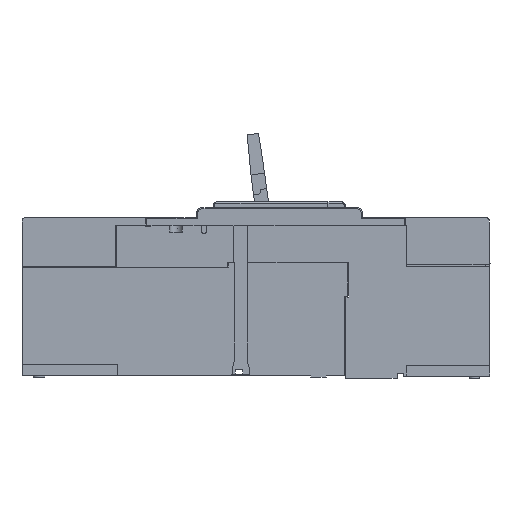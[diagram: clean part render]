
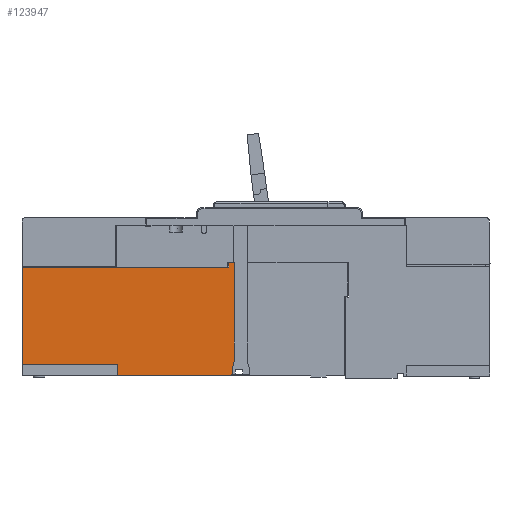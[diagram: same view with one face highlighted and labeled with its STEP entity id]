
A CAD part, left-side view. The second image highlights one B-rep face of the part: STEP entity #123947.
In plain terms, the highlighted planar face has unit normal (-1, 0, 0).
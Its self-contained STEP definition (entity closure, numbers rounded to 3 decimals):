
#14928=DIRECTION('',(0.,0.,1.));
#14929=VECTOR('',#14928,84.7);
#14930=CARTESIAN_POINT('',(2.393,359.95,30.61));
#14931=LINE('',#14930,#14929);
#14948=DIRECTION('',(0.,1.,0.));
#14949=VECTOR('',#14948,83.5);
#14950=CARTESIAN_POINT('',(2.393,276.45,30.61));
#14951=LINE('',#14950,#14949);
#14956=DIRECTION('',(0.,0.,1.));
#14957=VECTOR('',#14956,9.8);
#14958=CARTESIAN_POINT('',(2.393,276.45,20.81));
#14959=LINE('',#14958,#14957);
#14964=DIRECTION('',(0.,1.,0.001));
#14965=VECTOR('',#14964,4.554);
#14966=CARTESIAN_POINT('',(2.393,174.896,119.009));
#14967=LINE('',#14966,#14965);
#14968=DIRECTION('',(0.,0.001,-1.));
#14969=VECTOR('',#14968,0.301);
#14970=CARTESIAN_POINT('',(2.393,174.896,119.31));
#14971=LINE('',#14970,#14969);
#14972=DIRECTION('',(0.,-0.27,0.963));
#14973=VECTOR('',#14972,6.49);
#14974=CARTESIAN_POINT('',(2.393,176.2,27.81));
#14975=LINE('',#14974,#14973);
#14976=DIRECTION('',(0.,-0.071,0.997));
#14977=VECTOR('',#14976,7.018);
#14978=CARTESIAN_POINT('',(2.393,176.7,20.81));
#14979=LINE('',#14978,#14977);
#14980=DIRECTION('',(0.,0.001,-1.));
#14981=VECTOR('',#14980,0.045);
#14982=CARTESIAN_POINT('',(2.393,277.398,115.31));
#14983=LINE('',#14982,#14981);
#14984=DIRECTION('',(0.,1.,0.001));
#14985=VECTOR('',#14984,97.);
#14986=CARTESIAN_POINT('',(2.393,180.398,115.212));
#14987=LINE('',#14986,#14985);
#14988=DIRECTION('',(0.,-0.001,1.));
#14989=VECTOR('',#14988,0.098);
#14990=CARTESIAN_POINT('',(2.393,180.398,115.212));
#14991=LINE('',#14990,#14989);
#15000=DIRECTION('',(0.,-1.,0.));
#15001=VECTOR('',#15000,0.446);
#15002=CARTESIAN_POINT('',(2.393,174.896,119.31));
#15003=LINE('',#15002,#15001);
#15004=DIRECTION('',(0.,0.,-1.));
#15005=VECTOR('',#15004,85.25);
#15006=CARTESIAN_POINT('',(2.393,174.45,119.31));
#15007=LINE('',#15006,#15005);
#15414=DIRECTION('',(0.,1.,0.));
#15415=VECTOR('',#15414,99.75);
#15416=CARTESIAN_POINT('',(2.393,176.7,20.81));
#15417=LINE('',#15416,#15415);
#16069=DIRECTION('',(0.,0.,1.));
#16070=VECTOR('',#16069,3.702);
#16071=CARTESIAN_POINT('',(2.393,179.45,115.31));
#16072=LINE('',#16071,#16070);
#16090=DIRECTION('',(0.,-1.,0.));
#16091=VECTOR('',#16090,0.948);
#16092=CARTESIAN_POINT('',(2.393,180.398,115.31));
#16093=LINE('',#16092,#16091);
#16130=DIRECTION('',(0.,-1.,0.));
#16131=VECTOR('',#16130,82.552);
#16132=CARTESIAN_POINT('',(2.393,359.95,115.31));
#16133=LINE('',#16132,#16131);
#85842=CARTESIAN_POINT('',(2.393,174.45,119.31));
#85843=CARTESIAN_POINT('',(2.393,174.45,34.06));
#85844=VERTEX_POINT('',#85842);
#85845=VERTEX_POINT('',#85843);
#85850=CARTESIAN_POINT('',(2.393,179.45,115.31));
#85851=VERTEX_POINT('',#85850);
#85852=CARTESIAN_POINT('',(2.393,359.95,115.31));
#85853=VERTEX_POINT('',#85852);
#85854=CARTESIAN_POINT('',(2.393,276.45,30.61));
#85856=VERTEX_POINT('',#85854);
#85858=CARTESIAN_POINT('',(2.393,359.95,30.61));
#85859=VERTEX_POINT('',#85858);
#85864=CARTESIAN_POINT('',(2.393,276.45,20.81));
#85865=VERTEX_POINT('',#85864);
#86084=CARTESIAN_POINT('',(2.393,176.7,20.81));
#86085=CARTESIAN_POINT('',(2.393,176.2,27.81));
#86086=VERTEX_POINT('',#86084);
#86087=VERTEX_POINT('',#86085);
#98435=CARTESIAN_POINT('',(2.393,179.45,119.011));
#98436=VERTEX_POINT('',#98435);
#98441=CARTESIAN_POINT('',(2.393,180.398,115.31));
#98442=VERTEX_POINT('',#98441);
#98443=CARTESIAN_POINT('',(2.393,277.398,115.31));
#98444=VERTEX_POINT('',#98443);
#98590=CARTESIAN_POINT('',(2.393,174.896,119.31));
#98591=VERTEX_POINT('',#98590);
#98600=CARTESIAN_POINT('',(2.393,174.896,119.009));
#98601=VERTEX_POINT('',#98600);
#98602=CARTESIAN_POINT('',(2.393,180.398,115.212));
#98603=VERTEX_POINT('',#98602);
#98604=CARTESIAN_POINT('',(2.393,277.398,115.265));
#98605=VERTEX_POINT('',#98604);
#123913=CARTESIAN_POINT('',(2.393,74.95,
24.81));
#123914=DIRECTION('',(-1.,0.,0.));
#123915=DIRECTION('',(0.,0.,1.));
#123916=AXIS2_PLACEMENT_3D('',#123913,#123914,#123915);
#123917=PLANE('',#123916);
#123918=ORIENTED_EDGE('',*,*,#121220,.F.);
#123919=ORIENTED_EDGE('',*,*,#117487,.F.);
#123921=ORIENTED_EDGE('',*,*,#123920,.T.);
#123923=ORIENTED_EDGE('',*,*,#123922,.T.);
#123925=ORIENTED_EDGE('',*,*,#123924,.F.);
#123927=ORIENTED_EDGE('',*,*,#123926,.F.);
#123929=ORIENTED_EDGE('',*,*,#123928,.T.);
#123930=ORIENTED_EDGE('',*,*,#123906,.T.);
#123931=ORIENTED_EDGE('',*,*,#123894,.T.);
#123932=ORIENTED_EDGE('',*,*,#123863,.T.);
#123934=ORIENTED_EDGE('',*,*,#123933,.T.);
#123936=ORIENTED_EDGE('',*,*,#123935,.T.);
#123938=ORIENTED_EDGE('',*,*,#123937,.F.);
#123940=ORIENTED_EDGE('',*,*,#123939,.T.);
#123942=ORIENTED_EDGE('',*,*,#123941,.T.);
#123944=ORIENTED_EDGE('',*,*,#123943,.T.);
#123945=EDGE_LOOP('',(#123918,#123919,#123921,#123923,#123925,#123927,#123929,
#123930,#123931,#123932,#123934,#123936,#123938,#123940,#123942,#123944));
#123946=FACE_OUTER_BOUND('',#123945,.F.);
#123947=ADVANCED_FACE('',(#123946),#123917,.T.);
#117487=EDGE_CURVE('',#98591,#98601,#14971,.T.);
#121220=EDGE_CURVE('',#98601,#98436,#14967,.T.);
#123863=EDGE_CURVE('',#85859,#85853,#14931,.T.);
#123894=EDGE_CURVE('',#85856,#85859,#14951,.T.);
#123906=EDGE_CURVE('',#85865,#85856,#14959,.T.);
#123920=EDGE_CURVE('',#98591,#85844,#15003,.T.);
#123922=EDGE_CURVE('',#85844,#85845,#15007,.T.);
#123924=EDGE_CURVE('',#86087,#85845,#14975,.T.);
#123926=EDGE_CURVE('',#86086,#86087,#14979,.T.);
#123928=EDGE_CURVE('',#86086,#85865,#15417,.T.);
#123933=EDGE_CURVE('',#85853,#98444,#16133,.T.);
#123935=EDGE_CURVE('',#98444,#98605,#14983,.T.);
#123937=EDGE_CURVE('',#98603,#98605,#14987,.T.);
#123939=EDGE_CURVE('',#98603,#98442,#14991,.T.);
#123941=EDGE_CURVE('',#98442,#85851,#16093,.T.);
#123943=EDGE_CURVE('',#85851,#98436,#16072,.T.);
